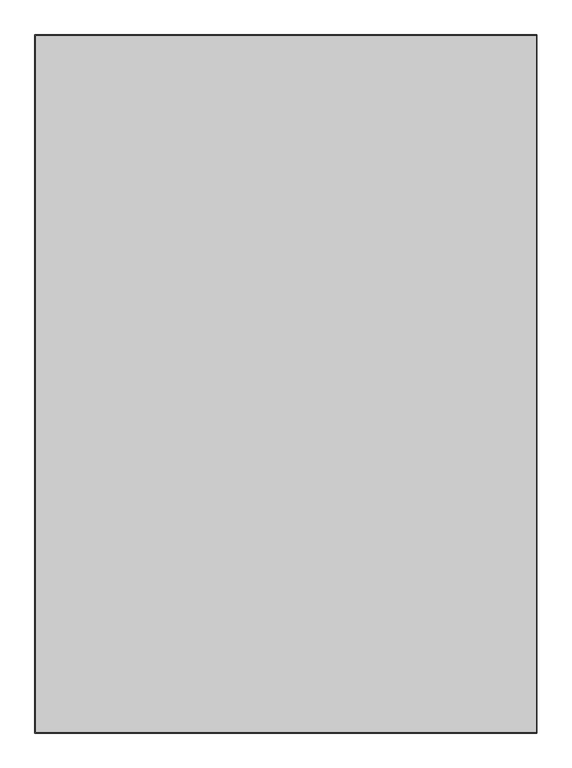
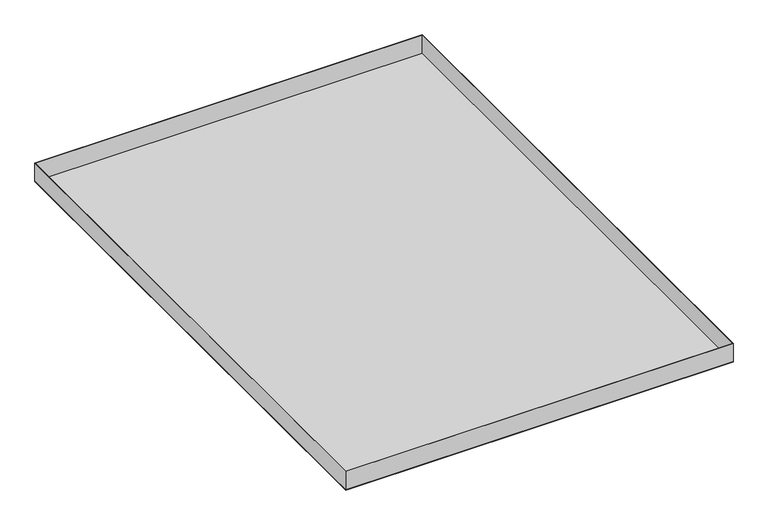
"""IFC4 building model written with IfcOpenShell, lengths in millimetres: proxy geometry, durlum_S7KS_RHOMBOS_panel : durlum_S7KS_RHOMBOS_panel_wall_length_cut."""

from ifc_helpers import new_model, si_unit, frame, origin, origin_with_axes, place, context, project, spatial, polyline, outline, extrude, source, transform, mapped, element, save


def generic_models_a91f9f0f(model_context):
    return source(origin(), model_context, "Body", "SweptSolid", [
        extrude(outline(polyline([(395.0, 549.0), (395.0, -549.0), (-395.0, -549.0), (-395.0, 549.0), (395.0, 549.0)]), holes=[polyline([(394.0, 548.0), (-394.0, 548.0), (-394.0, -548.0), (394.0, -548.0), (394.0, 548.0)])]), frame((0.0, 0.0, 1.0), z_axis=(0.0, 0.0, 1.0), x_axis=(1.0, 0.0, 0.0)), (0.0, 0.0, 1.0), 39.0),
        extrude(outline(polyline([(395.0, 549.0), (395.0, -549.0), (-395.0, -549.0), (-395.0, 549.0), (395.0, 549.0)])), origin_with_axes(), (0.0, 0.0, 1.0), 1.0),
    ])


if __name__ == "__main__":
    model = new_model("IFC4")
    model_context = context("Model", 3, world=origin())
    ifc_project = project(units=[si_unit("LENGTHUNIT", "METRE", prefix="MILLI")], contexts=[model_context])
    site = spatial("IfcSite", under=ifc_project)
    building = spatial("IfcBuilding", under=site)
    placement = place(None, origin())
    generic_models_shape = generic_models_a91f9f0f(model_context)
    element("IfcBuildingElementProxy", 1, Name="durlum_S7KS_RHOMBOS_panel : durlum_S7KS_RHOMBOS_panel_wall_length_cut", ObjectType="durlum_S7KS_RHOMBOS_panel : durlum_S7KS_RHOMBOS_panel_wall_length_cut", at=placement, inside=building, context=model_context, shape_type="MappedRepresentation", body=[
        mapped(generic_models_shape, transform((0.0, 0.0, 0.0), x_axis=(1.0, 0.0, 0.0), y_axis=(0.0, 1.0, 0.0), z_axis=(0.0, 0.0, 1.0))),
    ])
    save(model, "model.ifc")
